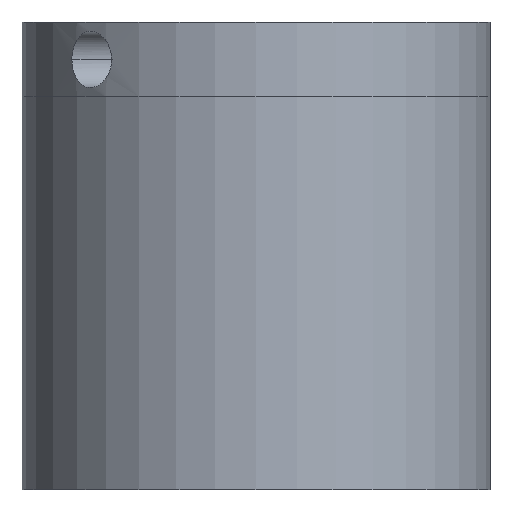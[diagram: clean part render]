
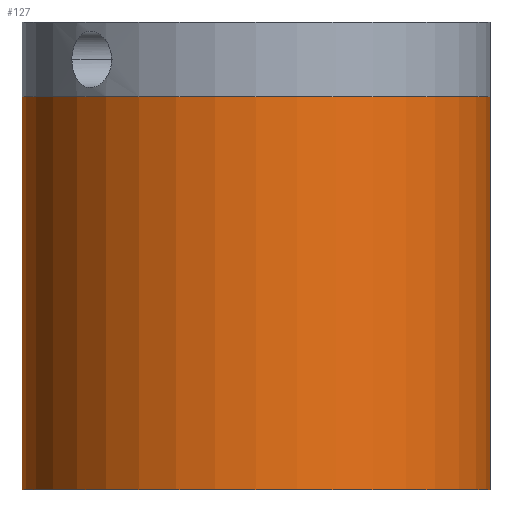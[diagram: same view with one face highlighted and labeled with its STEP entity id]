
A CAD part, front view. The second image highlights one B-rep face of the part: STEP entity #127.
In plain terms, the highlighted cylindrical face has radius 25 mm (diameter 50 mm), a partial arc.
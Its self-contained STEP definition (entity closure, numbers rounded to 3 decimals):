
#127=ADVANCED_FACE('',(#161),#147,.T.);
#147=CYLINDRICAL_SURFACE('',#416,25.);
#161=FACE_OUTER_BOUND('',#173,.T.);
#173=EDGE_LOOP('',(#221,#222,#223,#224));
#201=CIRCLE('',#414,25.);
#202=CIRCLE('',#415,25.);
#221=ORIENTED_EDGE('',*,*,#337,.T.);
#222=ORIENTED_EDGE('',*,*,#338,.F.);
#223=ORIENTED_EDGE('',*,*,#339,.F.);
#224=ORIENTED_EDGE('',*,*,#340,.T.);
#309=VERTEX_POINT('',#554);
#310=VERTEX_POINT('',#555);
#311=VERTEX_POINT('',#557);
#312=VERTEX_POINT('',#559);
#337=EDGE_CURVE('',#309,#310,#381,.T.);
#338=EDGE_CURVE('',#311,#310,#201,.T.);
#339=EDGE_CURVE('',#312,#311,#382,.T.);
#340=EDGE_CURVE('',#312,#309,#202,.T.);
#381=LINE('',#553,#397);
#382=LINE('',#558,#398);
#397=VECTOR('',#456,1.);
#398=VECTOR('',#459,1.);
#414=AXIS2_PLACEMENT_3D('',#556,#457,#458);
#415=AXIS2_PLACEMENT_3D('',#560,#460,#461);
#416=AXIS2_PLACEMENT_3D('',#561,#462,#463);
#456=DIRECTION('',(0.,0.,-1.));
#457=DIRECTION('',(0.,0.,-1.));
#458=DIRECTION('',(0.,1.,0.));
#459=DIRECTION('',(0.,0.,-1.));
#460=DIRECTION('',(0.,0.,-1.));
#461=DIRECTION('',(0.,1.,0.));
#462=DIRECTION('',(0.,0.,-1.));
#463=DIRECTION('',(0.,-1.,0.));
#553=CARTESIAN_POINT('',(-25.,0.,0.));
#554=CARTESIAN_POINT('',(-25.,0.,42.));
#555=CARTESIAN_POINT('',(-25.,0.,0.));
#556=CARTESIAN_POINT('',(0.,0.,0.));
#557=CARTESIAN_POINT('',(25.,0.,0.));
#558=CARTESIAN_POINT('',(25.,0.,0.));
#559=CARTESIAN_POINT('',(25.,0.,42.));
#560=CARTESIAN_POINT('',(0.,0.,42.));
#561=CARTESIAN_POINT('',(0.,0.,42.));
